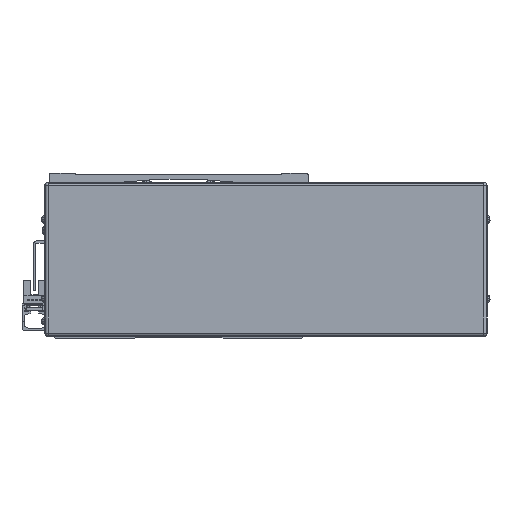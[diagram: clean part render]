
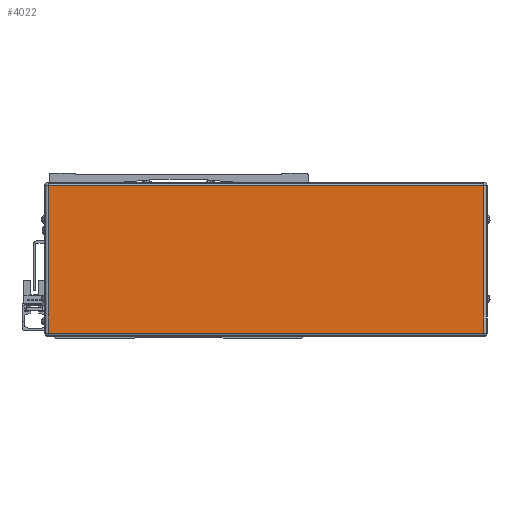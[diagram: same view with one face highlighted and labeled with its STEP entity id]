
A CAD part, front view. The second image highlights one B-rep face of the part: STEP entity #4022.
In plain terms, the highlighted planar face has unit normal (0, -1, 0).
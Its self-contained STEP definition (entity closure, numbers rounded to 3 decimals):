
#4022=ADVANCED_FACE('',(#9870),#9871,.T.);
#9870=FACE_OUTER_BOUND('',#18664,.T.);
#9871=PLANE('',#18665);
#18664=EDGE_LOOP('',(#31282,#31283,#31284,#31285));
#18665=AXIS2_PLACEMENT_3D('',#31286,#31287,#31288);
#31282=ORIENTED_EDGE('',*,*,#52733,.F.);
#31283=ORIENTED_EDGE('',*,*,#52734,.F.);
#31284=ORIENTED_EDGE('',*,*,#49880,.F.);
#31285=ORIENTED_EDGE('',*,*,#52735,.F.);
#31286=CARTESIAN_POINT('',(-545.,-72.778,-2.));
#31287=DIRECTION('',(0.,-1.0,0.));
#31288=DIRECTION('',(1.0,0.,0.));
#49880=EDGE_CURVE('',#59143,#59145,#59146,.T.);
#52733=EDGE_CURVE('',#64061,#59639,#64062,.T.);
#52734=EDGE_CURVE('',#59145,#64061,#64063,.T.);
#52735=EDGE_CURVE('',#59639,#59143,#64064,.T.);
#59143=VERTEX_POINT('',#72747);
#59145=VERTEX_POINT('',#72749);
#59146=LINE('',#72750,#72751);
#59639=VERTEX_POINT('',#73453);
#64061=VERTEX_POINT('',#80111);
#64062=LINE('',#80112,#80113);
#64063=LINE('',#80114,#80115);
#64064=LINE('',#80116,#80117);
#72747=CARTESIAN_POINT('',(-407.9,-72.778,-48.5));
#72749=CARTESIAN_POINT('',(-682.1,-72.778,-48.5));
#72750=CARTESIAN_POINT('',(-545.,-72.778,-48.5));
#72751=VECTOR('',#92608,10.0);
#73453=CARTESIAN_POINT('',(-407.9,-72.778,44.5));
#80111=CARTESIAN_POINT('',(-682.1,-72.778,44.5));
#80112=CARTESIAN_POINT('',(-545.,-72.778,44.5));
#80113=VECTOR('',#96187,10.0);
#80114=CARTESIAN_POINT('',(-682.1,-72.778,-2.));
#80115=VECTOR('',#96188,10.0);
#80116=CARTESIAN_POINT('',(-407.9,-72.778,-2.));
#80117=VECTOR('',#96189,10.0);
#92608=DIRECTION('',(-1.0,0.,0.));
#96187=DIRECTION('',(1.0,0.,0.));
#96188=DIRECTION('',(0.,0.,1.0));
#96189=DIRECTION('',(0.,0.,-1.0));
